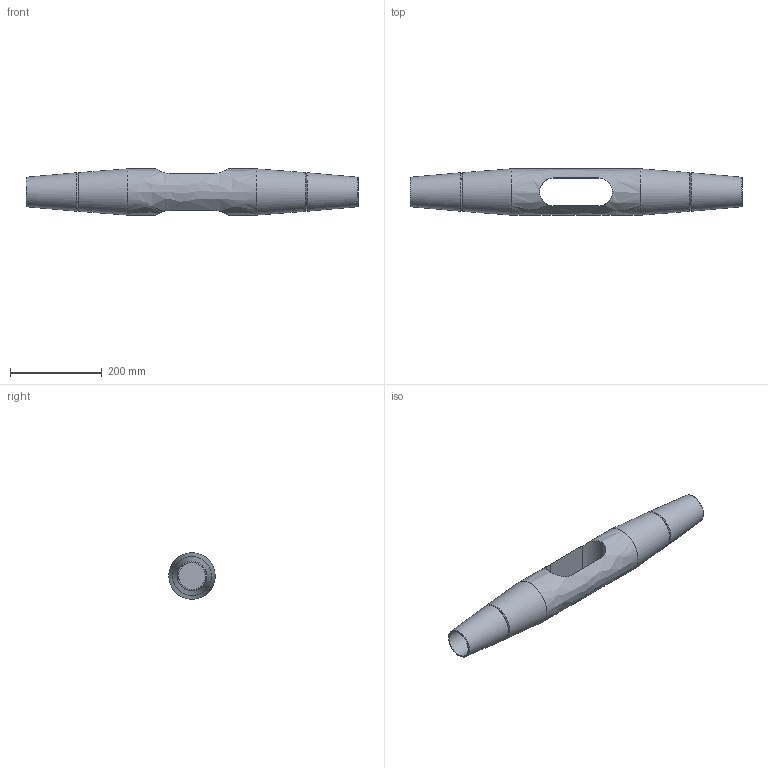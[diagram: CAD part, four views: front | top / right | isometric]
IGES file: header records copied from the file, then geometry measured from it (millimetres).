
Global section: file name: 520-056-KMF; native system: Autodesk Inventor 2016; preprocessor: unknown; author: Administrator; date: 20200702.132450; units: centimetre
Bounding box: 723 x 101 x 100.96 mm (x, y, z)
Volume: 3384216.7 mm3; surface area: 257568.5 mm2
Topology: 1 solids, 1 shells, 21 faces, 53 edges, 36 vertices
Faces by surface type: bspline 21
